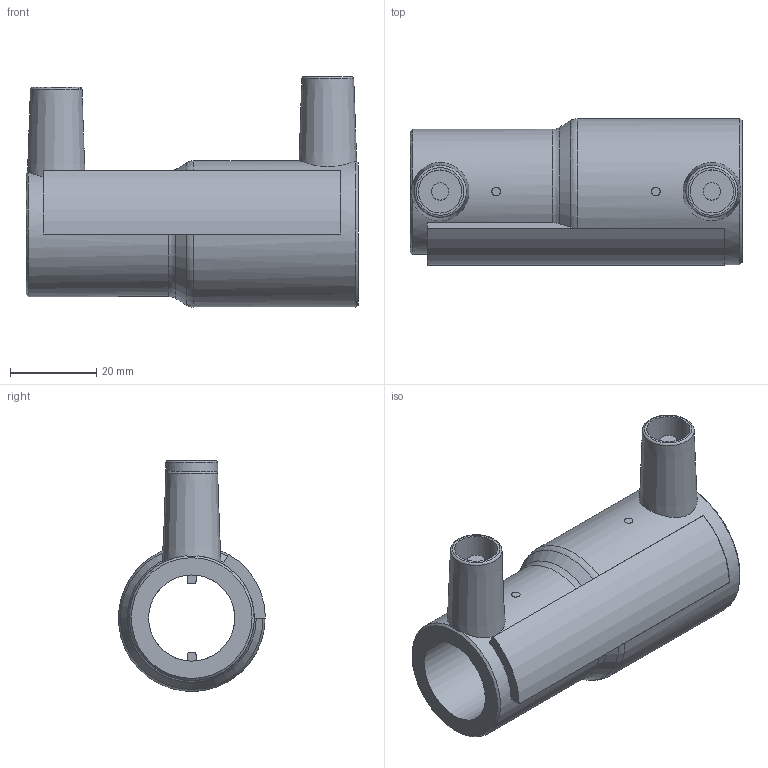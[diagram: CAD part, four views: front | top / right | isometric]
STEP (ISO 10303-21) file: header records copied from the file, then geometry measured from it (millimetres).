
FILE_DESCRIPTION(/* description */ ('Unknown'),/* implementation_level */ '2;1');
FILE_NAME(/* name */ 'REP025020C',/* time_stamp */ '2021-05-24T15:26:59+02:00',/* author */ ('Unknown'),/* organization */ ('Unknown'),/* preprocessor_version */ 'ST-DEVELOPER v16.7',/* originating_system */ 'Solid Edge',/* authorisation */ 'Unknown');
FILE_SCHEMA (('AUTOMOTIVE_DESIGN {1 0 10303 214 3 1 1}'));
Length unit declared in the file: millimetre
Products named in the file (1): REP025020C
Bounding box: 77 x 34.07 x 53.49 mm (x, y, z)
Volume: 33918.8 mm3; surface area: 17425.5 mm2
Topology: 1 solids, 1 shells, 49 faces, 114 edges, 74 vertices
Faces by surface type: plane 23, cylinder 17, cone 5, torus 4
Full cylindrical faces by diameter (mm): 4 x2, 10 x2, 20 x1, 25 x1, 29 x1, 34 x1
Entity records: 1339 total; most frequent: CARTESIAN_POINT 271, DIRECTION 230, ORIENTED_EDGE 182, AXIS2_PLACEMENT_3D 97, EDGE_CURVE 91, EDGE_LOOP 72, FACE_BOUND 72, VERTEX_POINT 65
